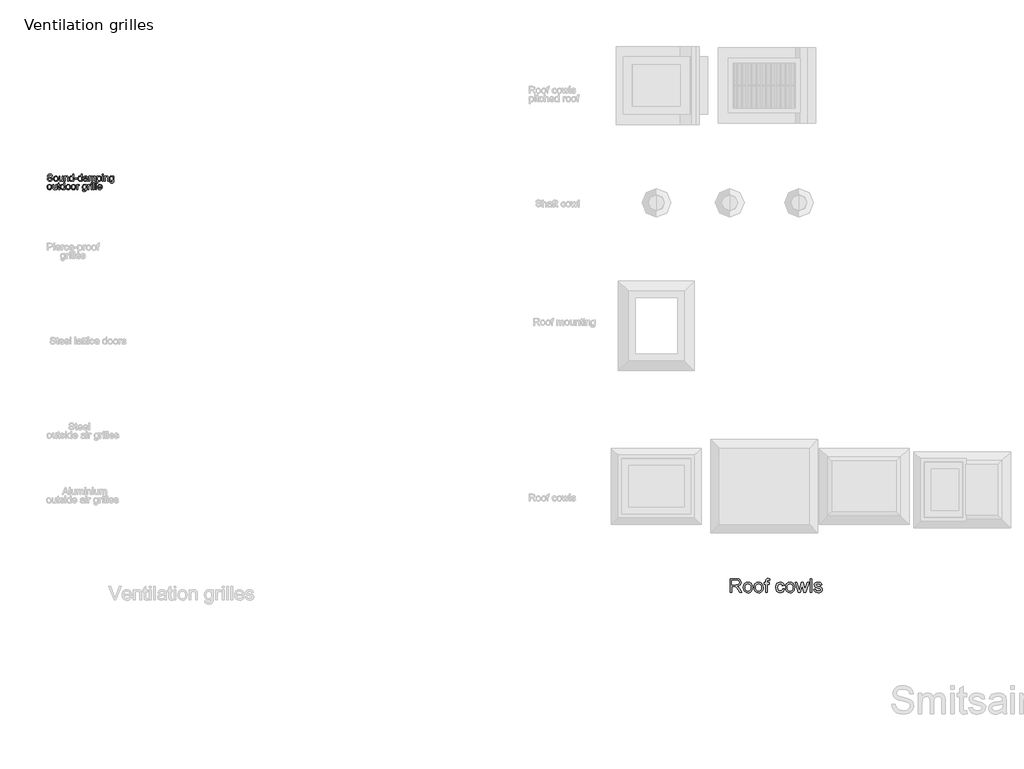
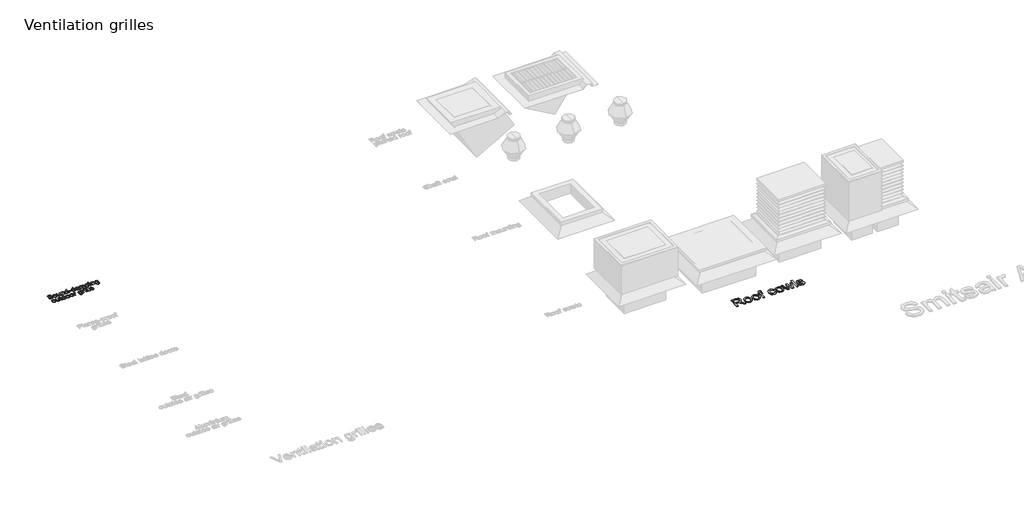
# One storey, part 4 of 10: 2 proxies.
"""IFC4 building model written with IfcOpenShell, lengths in millimetres."""

import ifcopenshell
import ifcopenshell.guid

model = None  # the IFC model being written
_history = None  # IfcOwnerHistory: only IFC2X3 demands one
_inside = {}  # id of a spatial element -> (the spatial element, [elements in it])
_under = {}  # id of a project, library or spatial element -> (it, [spatial elements below it])
_declared = {}  # id of a project -> (the project, [libraries it declares])
_typed = {}  # id of a type object -> (the type object, [elements of that type])
_made_of = {}  # id of a material, layer set ... -> (it, [elements and type objects made of it])


def new_model(schema):
    """Start an empty IFC model of exactly this schema.

    Asked for "IFC4X3", IfcOpenShell would pick the latest addendum, in which some entities
    have other attributes; the version numbers below select the first issue.
    IFC2X3 requires an IfcOwnerHistory on every rooted entity: one is made here for all.
    """
    global model, _history
    if schema == "IFC4X3":
        model = ifcopenshell.file(schema_version=(4, 3, 0, 0))
    else:
        model = ifcopenshell.file(schema=schema)
    _inside.clear()
    _under.clear()
    _declared.clear()
    _typed.clear()
    _made_of.clear()
    _history = None
    if model.schema == "IFC2X3":
        org = make("IfcOrganization", Name="unknown")
        user = make(
            "IfcPersonAndOrganization",
            ThePerson=make("IfcPerson", FamilyName="unknown"),
            TheOrganization=org,
        )
        app = make(
            "IfcApplication",
            ApplicationDeveloper=org,
            Version="unknown",
            ApplicationFullName="unknown",
            ApplicationIdentifier="unknown",
        )
        _history = make(
            "IfcOwnerHistory",
            OwningUser=user,
            OwningApplication=app,
            ChangeAction="ADDED",
            CreationDate=0,
        )
    return model


def make(cls, **values):
    """One entity of the class cls with the attributes given. An attribute that is None is left unset."""
    return model.create_entity(
        cls, **{name: value for name, value in values.items() if value is not None}
    )


def rooted(cls, **values):
    """An entity with a GlobalId (a new one), such as an element, a storey or a relation."""
    return make(cls, GlobalId=ifcopenshell.guid.new(), OwnerHistory=_history, **values)


def si_unit(unit_type, name, prefix=None):
    """IfcSIUnit, for example si_unit("LENGTHUNIT", "METRE", prefix="MILLI")."""
    return make("IfcSIUnit", UnitType=unit_type, Prefix=prefix, Name=name)


def assignment(units):
    """IfcUnitAssignment: the units of a project."""
    return None if units is None else make("IfcUnitAssignment", Units=units)


def point(xyz):
    """IfcCartesianPoint."""
    return None if xyz is None else make("IfcCartesianPoint", Coordinates=xyz)


def direction(xyz):
    """IfcDirection."""
    return None if xyz is None else make("IfcDirection", DirectionRatios=xyz)


def frame(location, z_axis=None, x_axis=None):
    """IfcAxis2Placement3D, a coordinate frame: its origin and axes. An axis left out is left unset."""
    return make(
        "IfcAxis2Placement3D",
        Location=point(location),
        Axis=direction(z_axis),
        RefDirection=direction(x_axis),
    )


def origin():
    """The frame at (0, 0, 0) with its axes left unset."""
    return frame((0.0, 0.0, 0.0))


def origin_with_axes():
    """The frame at (0, 0, 0) with the z axis (0, 0, 1) and the x axis (1, 0, 0) written out."""
    return frame((0.0, 0.0, 0.0), z_axis=(0.0, 0.0, 1.0), x_axis=(1.0, 0.0, 0.0))


def place(relative_to, where):
    """IfcLocalPlacement: puts the frame where relative to a parent placement (None: the world)."""
    return make(
        "IfcLocalPlacement", PlacementRelTo=relative_to, RelativePlacement=where
    )


def context(
    kind, dimensions, precision=None, world=None, true_north=None, identifier=None
):
    """IfcGeometricRepresentationContext, for example the 3D "Model" context."""
    return make(
        "IfcGeometricRepresentationContext",
        ContextIdentifier=identifier,
        ContextType=kind,
        CoordinateSpaceDimension=dimensions,
        Precision=precision,
        WorldCoordinateSystem=world,
        TrueNorth=true_north,
    )


def project(units=None, contexts=None):
    """IfcProject with its units and contexts."""
    return rooted(
        "IfcProject",
        Name="project",
        RepresentationContexts=contexts,
        UnitsInContext=assignment(units),
    )


def spatial(cls, under=None, at=None, **own):
    """A site, building, storey or space (cls), placed at a placement, below another one or the project."""
    s = rooted(cls, ObjectPlacement=at, **own)
    if under is not None:
        _under.setdefault(under.id(), (under, []))[1].append(s)
    return s


def polyline(points):
    """IfcPolyline through the points."""
    return make("IfcPolyline", Points=[point(p) for p in points])


def outline(outer, holes=None, kind="AREA"):
    """IfcArbitraryClosedProfileDef: a profile drawn as a closed curve; with holes, ...WithVoids."""
    if holes is None:
        return make("IfcArbitraryClosedProfileDef", ProfileType=kind, OuterCurve=outer)
    return make(
        "IfcArbitraryProfileDefWithVoids",
        ProfileType=kind,
        OuterCurve=outer,
        InnerCurves=holes,
    )


def extrude(swept, where, along, depth):
    """IfcExtrudedAreaSolid: the profile swept, set in the frame where, extruded along a direction by depth."""
    return make(
        "IfcExtrudedAreaSolid",
        SweptArea=swept,
        Position=where,
        ExtrudedDirection=direction(along),
        Depth=depth,
    )


def shape(context_of_items, identifier, shape_type, items):
    """IfcShapeRepresentation: the items that make up one representation, for example the "Body"."""
    return make(
        "IfcShapeRepresentation",
        ContextOfItems=context_of_items,
        RepresentationIdentifier=identifier,
        RepresentationType=shape_type,
        Items=items,
    )


def made_of(thing, what):
    """Note that an element or type object is made of a material, layer set ...; save() writes the relation."""
    if what is not None:
        _made_of.setdefault(what.id(), (what, []))[1].append(thing)
    return thing


def element(
    cls,
    number,
    at=None,
    inside=None,
    cuts=None,
    type_object=None,
    material=None,
    context=None,
    identifier="Body",
    shape_type=None,
    held_by="IfcProductDefinitionShape",
    body=None,
    shapes=None,
    **own,
):
    """One element of the class cls, such as IfcWall. Its Tag is "e" and its number.

    at: its placement. inside: the storey or other place that contains it. cuts: it is an
    opening in that element (IfcRelVoidsElement). A single representation is given by context,
    identifier, shape_type and body (its items); several are given by shapes. held_by: the class
    of the entity that holds the representations. save() writes the other relations.
    """
    e = rooted(cls, Tag="e%d" % number, ObjectPlacement=at, **own)
    if body is not None:
        shapes = [shape(context, identifier, shape_type, body)]
    if shapes is not None:
        e.Representation = make(held_by, Representations=shapes)
    if inside is not None:
        _inside.setdefault(inside.id(), (inside, []))[1].append(e)
    if cuts is not None:
        rooted(
            "IfcRelVoidsElement", RelatingBuildingElement=cuts, RelatedOpeningElement=e
        )
    if type_object is not None:
        _typed.setdefault(type_object.id(), (type_object, []))[1].append(e)
    return made_of(e, material)


def aggregate(whole, parts):
    """IfcRelAggregates: a whole, such as a stair, and the parts it consists of."""
    return rooted("IfcRelAggregates", RelatingObject=whole, RelatedObjects=parts)


def save(model, path):
    """Write the relations noted so far, then the file.

    IfcRelAggregates (storeys below a building ...), IfcRelContainedInSpatialStructure (elements
    in a storey), IfcRelDefinesByType, IfcRelAssociatesMaterial and IfcRelDeclares: one each for
    every whole, place, type object, material and project.
    """
    for whole, parts in _under.values():
        aggregate(whole, parts)
    for where, things in _inside.values():
        rooted(
            "IfcRelContainedInSpatialStructure",
            RelatedElements=things,
            RelatingStructure=where,
        )
    for kind, things in _typed.values():
        rooted("IfcRelDefinesByType", RelatedObjects=things, RelatingType=kind)
    for what, things in _made_of.values():
        rooted("IfcRelAssociatesMaterial", RelatedObjects=things, RelatingMaterial=what)
    for by, libraries in _declared.values():
        rooted("IfcRelDeclares", RelatingContext=by, RelatedDefinitions=libraries)
    model.write(path)


model = new_model("IFC4")

# Units and contexts
model_context = context("Model", 3, world=origin())
ifc_project = project(units=[si_unit("LENGTHUNIT", "METRE", prefix="MILLI")], contexts=[model_context])

# Site, building, storey
site = spatial("IfcSite", under=ifc_project)
building = spatial("IfcBuilding", under=site)
storey = spatial("IfcBuildingStorey", under=building, Name="Ventilation grilles", Elevation=0.0)

# Proxies
placement = place(None, origin())
element("IfcBuildingElementProxy", 1, Name="100mm", ObjectType="100mm", at=placement, inside=storey, context=model_context, shape_type="SweptSolid", body=[
    extrude(outline(polyline([(-4941.3555448, -10379.6983384), (-4928.798506, -10379.6983384), (-4924.751804, -10392.2676399), (-4914.8680411, -10400.213891), (-4899.8094048, -10403.2427861), (-4886.6882803, -10400.949655), (-4878.2147317, -10394.6466101), (-4875.4310912, -10386.2221124), (-4877.5157559, -10378.3862259), (-4886.0506182, -10372.684055), (-4904.3343533, -10367.8893263), (-4924.0160401, -10361.6966461), (-4934.6968806, -10352.3524434), (-4938.2162851, -10339.868981), (-4933.8630148, -10325.6564733), (-4921.1465605, -10315.6255575), (-4902.5317315, -10312.204255), (-4882.6661038, -10315.7849731), (-4869.422352, -10326.3063981), (-4864.4436823, -10342.0272221), (-4877.0007211, -10342.0272221), (-4879.3061149, -10334.5346921), (-4884.1131063, -10329.1268268), (-4902.0412222, -10324.7612938), (-4920.018389, -10329.0777758), (-4925.6592463, -10339.501099), (-4921.6615953, -10348.2076396), (-4901.1583054, -10355.221923), (-4878.9382329, -10361.5249678), (-4866.7858643, -10371.7030363), (-4862.8740525, -10385.9032814), (-4867.3744755, -10400.9251295), (-4880.3239218, -10411.8880129), (-4899.3188954, -10415.7998248), (-4921.7474344, -10411.5814446), (-4935.9354167, -10398.8772531), (-4941.3555448, -10379.6983384)])), origin_with_axes(), (0.0, 0.0, 1.0), 2.0),
    extrude(outline(polyline([(-4848.7473838, -10377.3438936), (-4846.0311884, -10359.5567991), (-4837.8826022, -10347.0549427), (-4827.8148983, -10340.9297074), (-4815.7606316, -10338.8879624), (-4802.5689964, -10341.3742315), (-4792.0322429, -10348.833039), (-4785.1252585, -10360.6757735), (-4782.8229303, -10376.313824), (-4786.8941577, -10398.6565239), (-4798.7522207, -10411.2994018), (-4815.7606316, -10415.7998248), (-4829.1116823, -10413.3227527), (-4839.6361731, -10405.8915364), (-4846.4695812, -10393.8004815), (-4848.7473838, -10377.3438936)]), holes=[polyline([(-4836.1903451, -10377.3193681), (-4834.7372112, -10388.6838561), (-4830.3778095, -10396.7803257), (-4823.8172473, -10401.627171), (-4815.7606316, -10403.2427861), (-4807.7408041, -10401.6179739), (-4801.1925046, -10396.7435375), (-4796.833103, -10388.539769), (-4795.3799691, -10376.9269607), (-4796.8423, -10365.8935665), (-4801.2292928, -10357.9074615), (-4807.7867894, -10353.0606162), (-4815.7606316, -10351.4450011), (-4823.8172473, -10353.0544849), (-4830.3778095, -10357.8829361), (-4834.7372112, -10365.9610115), (-4836.1903451, -10377.3193681)])]), origin_with_axes(), (0.0, 0.0, 1.0), 2.0),
    extrude(outline(polyline([(-4721.6073663, -10414.230195), (-4721.6073663, -10401.5505289), (-4731.4420783, -10412.2375008), (-4744.2688972, -10415.7998248), (-4756.0779093, -10413.2982273), (-4764.2203641, -10407.0197079), (-4767.9604977, -10397.7736071), (-4768.6962617, -10386.0994851), (-4768.6962617, -10340.4575922), (-4756.1392229, -10340.4575922), (-4756.1392229, -10380.1888477), (-4755.3789335, -10392.9911411), (-4750.4125265, -10400.5081966), (-4741.0560611, -10403.2427861), (-4730.5714243, -10400.4468829), (-4723.64298, -10392.8317256), (-4721.6073663, -10378.839947), (-4721.6073663, -10340.4575922), (-4709.0503275, -10340.4575922), (-4709.0503275, -10414.230195), (-4721.6073663, -10414.230195)])), origin_with_axes(), (0.0, 0.0, 1.0), 2.0),
    extrude(outline(polyline([(-4691.7843992, -10414.230195), (-4691.7843992, -10340.4575922), (-4679.2273605, -10340.4575922), (-4679.2273605, -10350.7582881), (-4669.6256404, -10341.8555438), (-4656.5167786, -10338.8879624), (-4644.6587156, -10341.2791953), (-4636.5653118, -10347.5577147), (-4632.8006527, -10356.7915528), (-4632.1384651, -10368.9316586), (-4632.1384651, -10414.230195), (-4644.6955038, -10414.230195), (-4644.6955038, -10370.6239158), (-4646.1425064, -10359.5138796), (-4651.2560661, -10353.6400304), (-4659.8767675, -10351.4450011), (-4673.5006641, -10356.3746199), (-4677.7956864, -10363.5176619), (-4679.2273605, -10375.0875507), (-4679.2273605, -10414.230195), (-4691.7843992, -10414.230195)])), origin_with_axes(), (0.0, 0.0, 1.0), 2.0),
    extrude(outline(polyline([(-4569.3532712, -10414.230195), (-4569.3532712, -10402.3843947), (-4577.661273, -10412.4459673), (-4589.1453226, -10415.7998248), (-4604.6944682, -10410.9437825), (-4615.6818772, -10397.3934623), (-4619.5814263, -10377.41747), (-4615.9884455, -10357.4292149), (-4605.2217658, -10343.6704283), (-4589.1943735, -10338.8879624), (-4577.6183534, -10342.3092649), (-4569.3532712, -10351.1997465), (-4569.3532712, -10313.7738848), (-4556.7962325, -10313.7738848), (-4556.7962325, -10414.230195), (-4569.3532712, -10414.230195)]), holes=[polyline([(-4607.0243875, -10377.3684191), (-4605.6080419, -10388.7267757), (-4601.3590048, -10396.8048511), (-4595.1847187, -10401.6333023), (-4587.9926257, -10403.2427861), (-4580.8035983, -10401.7068787), (-4574.785662, -10397.0991567), (-4570.7113689, -10389.333781), (-4569.3532712, -10378.3249123), (-4570.7358944, -10366.2890396), (-4574.8837639, -10357.9442497), (-4581.0549844, -10353.0698133), (-4588.5076605, -10351.4450011), (-4595.7733299, -10353.0054339), (-4601.7268868, -10357.6867323), (-4605.7000124, -10365.7280196), (-4607.0243875, -10377.3684191)])]), origin_with_axes(), (0.0, 0.0, 1.0), 2.0),
    extrude(outline(polyline([(-4544.2391937, -10384.4072279), (-4544.2391937, -10371.8501891), (-4504.9984475, -10371.8501891), (-4504.9984475, -10384.4072279), (-4544.2391937, -10384.4072279)])), origin_with_axes(), (0.0, 0.0, 1.0), 2.0),
    extrude(outline(polyline([(-4445.3525134, -10414.230195), (-4445.3525134, -10402.3843947), (-4453.6605151, -10412.4459673), (-4465.1445647, -10415.7998248), (-4480.6937104, -10410.9437825), (-4491.6811193, -10397.3934623), (-4495.5806685, -10377.41747), (-4491.9876876, -10357.4292149), (-4481.2210079, -10343.6704283), (-4465.1936157, -10338.8879624), (-4453.6175956, -10342.3092649), (-4445.3525134, -10351.1997465), (-4445.3525134, -10313.7738848), (-4432.7954746, -10313.7738848), (-4432.7954746, -10414.230195), (-4445.3525134, -10414.230195)]), holes=[polyline([(-4483.0236297, -10377.3684191), (-4481.607284, -10388.7267757), (-4477.358247, -10396.8048511), (-4471.1839608, -10401.6333023), (-4463.9918678, -10403.2427861), (-4456.8028405, -10401.7068787), (-4450.7849042, -10397.0991567), (-4446.7106111, -10389.333781), (-4445.3525134, -10378.3249123), (-4446.7351366, -10366.2890396), (-4450.8830061, -10357.9442497), (-4457.0542265, -10353.0698133), (-4464.5069026, -10351.4450011), (-4471.772572, -10353.0054339), (-4477.726129, -10357.6867323), (-4481.6992545, -10365.7280196), (-4483.0236297, -10377.3684191)])]), origin_with_axes(), (0.0, 0.0, 1.0), 2.0),
    extrude(outline(polyline([(-4366.8710211, -10404.8124159), (-4379.0479151, -10413.3227527), (-4392.5001334, -10415.7998248), (-4402.9939673, -10414.3099028), (-4410.7348176, -10409.8401365), (-4415.5080865, -10403.0527137), (-4417.0991762, -10394.6098219), (-4414.6956805, -10384.677008), (-4408.3803729, -10377.4665209), (-4399.5879932, -10373.3462426), (-4388.7232116, -10371.4577817), (-4366.9445975, -10367.1412996), (-4366.8710211, -10364.3453964), (-4370.3291118, -10355.0747702), (-4384.2105258, -10351.4450011), (-4396.9147174, -10353.8607596), (-4402.9725076, -10362.4324101), (-4415.5295463, -10360.8627802), (-4410.0971555, -10348.600047), (-4399.1587975, -10341.4140854), (-4382.591845, -10338.8879624), (-4367.3737932, -10341.1197798), (-4358.7776172, -10346.7238489), (-4354.927119, -10355.2464484), (-4354.3139823, -10366.2338573), (-4354.3139823, -10381.8565794), (-4353.6763202, -10403.6719817), (-4351.1747226, -10414.230195), (-4363.7317614, -10414.230195), (-4366.8710211, -10404.8124159)]), holes=[polyline([(-4366.8710211, -10379.6983384), (-4387.1290563, -10383.5488366), (-4397.9325242, -10385.5844503), (-4402.8253548, -10388.8953883), (-4404.5421374, -10393.7269051), (-4400.8020038, -10400.5204593), (-4389.8268576, -10403.2427861), (-4377.122666, -10400.2384164), (-4368.9311603, -10392.9666157), (-4366.9445975, -10383.254531), (-4366.8710211, -10379.6983384)])]), origin_with_axes(), (0.0, 0.0, 1.0), 2.0),
    extrude(outline(polyline([(-4337.048054, -10414.230195), (-4337.048054, -10340.4575922), (-4324.4910152, -10340.4575922), (-4324.4910152, -10352.5976981), (-4315.8580511, -10342.6526215), (-4303.5707925, -10338.8879624), (-4290.9892282, -10342.7261979), (-4284.0730467, -10353.4806148), (-4274.2751229, -10342.5361255), (-4261.9020251, -10338.8879624), (-4252.4627863, -10340.4054756), (-4245.4822254, -10344.9580153), (-4241.168809, -10352.6682088), (-4239.7310036, -10363.6586834), (-4239.7310036, -10414.230195), (-4252.2880423, -10414.230195), (-4252.2880423, -10369.054286), (-4253.453002, -10358.5696491), (-4257.6713822, -10353.4070384), (-4264.8450811, -10351.4450011), (-4277.1936534, -10356.4727217), (-4280.8816704, -10363.0148899), (-4282.1110094, -10372.5859531), (-4282.1110094, -10414.230195), (-4294.6680482, -10414.230195), (-4294.6680482, -10367.6563344), (-4297.5743159, -10355.4917031), (-4307.1024596, -10351.4450011), (-4316.3976114, -10354.1428024), (-4322.5780289, -10362.0400026), (-4324.4910152, -10377.0250625), (-4324.4910152, -10414.230195), (-4337.048054, -10414.230195)])), origin_with_axes(), (0.0, 0.0, 1.0), 2.0),
    extrude(outline(polyline([(-4220.8954454, -10442.4835322), (-4220.8954454, -10340.4575922), (-4208.3384066, -10340.4575922), (-4208.3384066, -10352.7693763), (-4199.6563915, -10342.3583159), (-4187.9332186, -10338.8879624), (-4172.016191, -10343.7440047), (-4161.6173932, -10357.4292149), (-4158.1102516, -10376.7798079), (-4162.0711144, -10397.1236822), (-4173.5735581, -10410.9805707), (-4189.4537975, -10415.7998248), (-4200.3798928, -10412.574726), (-4208.3384066, -10404.4200084), (-4208.3384066, -10442.4835322), (-4220.8954454, -10442.4835322)]), holes=[polyline([(-4208.3384066, -10377.9325048), (-4206.9803089, -10389.1896938), (-4202.9060158, -10397.0623685), (-4196.8942109, -10401.6976817), (-4189.7235777, -10403.2427861), (-4182.4364485, -10401.6424994), (-4176.2713594, -10396.8416393), (-4172.0683076, -10388.6807904), (-4170.6672903, -10377.0005371), (-4172.0345851, -10365.8046617), (-4176.1364693, -10357.8216224), (-4182.1390772, -10353.0391565), (-4189.2085429, -10351.4450011), (-4196.3055997, -10353.140324), (-4202.5381338, -10358.2262926), (-4206.8883384, -10366.5434914), (-4208.3384066, -10377.9325048)])]), origin_with_axes(), (0.0, 0.0, 1.0), 2.0),
    extrude(outline(polyline([(-4143.9835829, -10326.3309236), (-4143.9835829, -10313.7738848), (-4131.4265442, -10313.7738848), (-4131.4265442, -10326.3309236), (-4143.9835829, -10326.3309236)])), origin_with_axes(), (0.0, 0.0, 1.0), 2.0),
    extrude(outline(polyline([(-4143.9835829, -10414.230195), (-4143.9835829, -10340.4575922), (-4131.4265442, -10340.4575922), (-4131.4265442, -10414.230195), (-4143.9835829, -10414.230195)])), origin_with_axes(), (0.0, 0.0, 1.0), 2.0),
    extrude(outline(polyline([(-4112.590986, -10414.230195), (-4112.590986, -10340.4575922), (-4100.0339473, -10340.4575922), (-4100.0339473, -10350.7582881), (-4090.4322272, -10341.8555438), (-4077.3233654, -10338.8879624), (-4065.4653024, -10341.2791953), (-4057.3718985, -10347.5577147), (-4053.6072395, -10356.7915528), (-4052.9450519, -10368.9316586), (-4052.9450519, -10414.230195), (-4065.5020906, -10414.230195), (-4065.5020906, -10370.6239158), (-4066.9490932, -10359.5138796), (-4072.0626529, -10353.6400304), (-4080.6833543, -10351.4450011), (-4094.3072509, -10356.3746199), (-4098.6022732, -10363.5176619), (-4100.0339473, -10375.0875507), (-4100.0339473, -10414.230195), (-4112.590986, -10414.230195)])), origin_with_axes(), (0.0, 0.0, 1.0), 2.0),
    extrude(outline(polyline([(-4038.8183833, -10420.5087144), (-4026.2613445, -10422.0783442), (-4022.1901171, -10428.7002201), (-4010.0009603, -10431.4961233), (-3997.1496159, -10428.3323381), (-3991.0182494, -10419.4541193), (-3990.159858, -10404.8124159), (-3999.0012886, -10411.8757502), (-4009.7802311, -10414.230195), (-4022.7266117, -10411.4894741), (-4032.3804483, -10403.2673115), (-4038.3861219, -10391.2130448), (-4040.3880131, -10376.9760116), (-4036.7950323, -10357.5150541), (-4026.3962346, -10343.7440047), (-4010.3933678, -10338.8879624), (-3999.191361, -10341.6348146), (-3990.159858, -10349.8753713), (-3990.159858, -10340.4575922), (-3977.6028193, -10340.4575922), (-3977.6028193, -10404.1502283), (-3981.0363845, -10428.5408046), (-3991.9134289, -10439.8838328), (-4010.246215, -10444.0531621), (-4021.929534, -10442.5846998), (-4031.1296496, -10438.1793129), (-4037.0310899, -10430.8247387), (-4038.8183833, -10420.5087144)]), holes=[polyline([(-4027.8309743, -10376.1176203), (-4026.4912707, -10387.6353924), (-4022.4721599, -10395.5540524), (-4016.4296982, -10400.1433803), (-4009.0199416, -10401.6731562), (-4001.6653674, -10400.1525773), (-3995.5922488, -10395.5908406), (-3991.5179557, -10387.7733482), (-3990.159858, -10376.4855023), (-3991.5578096, -10365.5992609), (-3995.7516644, -10357.7603087), (-4001.9136878, -10353.023828), (-4009.2161454, -10351.4450011), (-4016.3867786, -10352.9993026), (-4022.3985835, -10357.6622069), (-4026.4728766, -10365.3846631), (-4027.8309743, -10376.1176203)])]), origin_with_axes(), (0.0, 0.0, 1.0), 2.0),
    extrude(outline(polyline([(-4941.3555448, -10499.3187114), (-4938.6393494, -10481.531617), (-4930.4907632, -10469.0297605), (-4920.4230592, -10462.9045253), (-4908.3687925, -10460.8627802), (-4895.1771573, -10463.3490494), (-4884.6404038, -10470.8078568), (-4877.7334194, -10482.6505914), (-4875.4310912, -10498.2886419), (-4879.5023186, -10520.6313417), (-4891.3603816, -10533.2742196), (-4908.3687925, -10537.7746427), (-4921.7198433, -10535.2975706), (-4932.244334, -10527.8663543), (-4939.0777421, -10515.7752994), (-4941.3555448, -10499.3187114)]), holes=[polyline([(-4928.798506, -10499.294186), (-4927.3453721, -10510.6586739), (-4922.9859705, -10518.7551435), (-4916.4254082, -10523.6019888), (-4908.3687925, -10525.2176039), (-4900.348965, -10523.5927918), (-4893.8006655, -10518.7183553), (-4889.4412639, -10510.5145868), (-4887.98813, -10498.9017785), (-4889.4504609, -10487.8683843), (-4893.8374537, -10479.8822794), (-4900.3949503, -10475.0354341), (-4908.3687925, -10473.419819), (-4916.4254082, -10475.0293027), (-4922.9859705, -10479.8577539), (-4927.3453721, -10487.9358294), (-4928.798506, -10499.294186)])]), origin_with_axes(), (0.0, 0.0, 1.0), 2.0),
    extrude(outline(polyline([(-4814.2155272, -10536.2050128), (-4814.2155272, -10523.5253467), (-4824.0502392, -10534.2123187), (-4836.8770581, -10537.7746427), (-4848.6860702, -10535.2730451), (-4856.828525, -10528.9945257), (-4860.5686586, -10519.7484249), (-4861.3044226, -10508.0743029), (-4861.3044226, -10462.4324101), (-4848.7473838, -10462.4324101), (-4848.7473838, -10502.1636655), (-4847.9870944, -10514.965959), (-4843.0206874, -10522.4830144), (-4833.664222, -10525.2176039), (-4823.1795852, -10522.4217007), (-4816.2511409, -10514.8065434), (-4814.2155272, -10500.8147649), (-4814.2155272, -10462.4324101), (-4801.6584885, -10462.4324101), (-4801.6584885, -10536.2050128), (-4814.2155272, -10536.2050128)])), origin_with_axes(), (0.0, 0.0, 1.0), 2.0),
    extrude(outline(polyline([(-4757.7088528, -10525.7326387), (-4756.1392229, -10536.5728948), (-4765.5324765, -10537.7746427), (-4776.0539016, -10535.689978), (-4781.3023514, -10530.220799), (-4782.8229303, -10515.9715031), (-4782.8229303, -10474.9894488), (-4792.2407094, -10474.9894488), (-4792.2407094, -10462.4324101), (-4782.8229303, -10462.4324101), (-4782.8229303, -10444.5042942), (-4770.2658915, -10437.1221288), (-4770.2658915, -10462.4324101), (-4757.7088528, -10462.4324101), (-4757.7088528, -10474.9894488), (-4770.2658915, -10474.9894488), (-4770.2658915, -10515.6036211), (-4769.6037039, -10522.0783442), (-4767.4577256, -10524.3714753), (-4763.1780318, -10525.2176039), (-4757.7088528, -10525.7326387)])), origin_with_axes(), (0.0, 0.0, 1.0), 2.0),
    extrude(outline(polyline([(-4699.6325485, -10536.2050128), (-4699.6325485, -10524.3592126), (-4707.9405502, -10534.4207852), (-4719.4245998, -10537.7746427), (-4734.9737455, -10532.9186003), (-4745.9611544, -10519.3682802), (-4749.8607035, -10499.3922878), (-4746.2677227, -10479.4040328), (-4735.501043, -10465.6452462), (-4719.4736507, -10460.8627802), (-4707.8976306, -10464.2840828), (-4699.6325485, -10473.1745643), (-4699.6325485, -10435.7487027), (-4687.0755097, -10435.7487027), (-4687.0755097, -10536.2050128), (-4699.6325485, -10536.2050128)]), holes=[polyline([(-4737.3036648, -10499.3432369), (-4735.8873191, -10510.7015935), (-4731.638282, -10518.779669), (-4725.4639959, -10523.6081202), (-4718.2719029, -10525.2176039), (-4711.0828756, -10523.6816966), (-4705.0649393, -10519.0739746), (-4700.9906462, -10511.3085988), (-4699.6325485, -10500.2997301), (-4701.0151716, -10488.2638575), (-4705.1630411, -10479.9190676), (-4711.3342616, -10475.0446311), (-4718.7869377, -10473.419819), (-4726.0526071, -10474.9802518), (-4732.006164, -10479.6615502), (-4735.9792896, -10487.7028374), (-4737.3036648, -10499.3432369)])]), origin_with_axes(), (0.0, 0.0, 1.0), 2.0),
    extrude(outline(polyline([(-4671.3792112, -10499.3187114), (-4668.6630158, -10481.531617), (-4660.5144296, -10469.0297605), (-4650.4467257, -10462.9045253), (-4638.392459, -10460.8627802), (-4625.2008238, -10463.3490494), (-4614.6640703, -10470.8078568), (-4607.7570858, -10482.6505914), (-4605.4547577, -10498.2886419), (-4609.5259851, -10520.6313417), (-4621.3840481, -10533.2742196), (-4638.392459, -10537.7746427), (-4651.7435097, -10535.2975706), (-4662.2680005, -10527.8663543), (-4669.1014085, -10515.7752994), (-4671.3792112, -10499.3187114)]), holes=[polyline([(-4658.8221725, -10499.294186), (-4657.3690386, -10510.6586739), (-4653.0096369, -10518.7551435), (-4646.4490747, -10523.6019888), (-4638.392459, -10525.2176039), (-4630.3726315, -10523.5927918), (-4623.824332, -10518.7183553), (-4619.4649303, -10510.5145868), (-4618.0117965, -10498.9017785), (-4619.4741274, -10487.8683843), (-4623.8611202, -10479.8822794), (-4630.4186168, -10475.0354341), (-4638.392459, -10473.419819), (-4646.4490747, -10475.0293027), (-4653.0096369, -10479.8577539), (-4657.3690386, -10487.9358294), (-4658.8221725, -10499.294186)])]), origin_with_axes(), (0.0, 0.0, 1.0), 2.0),
    extrude(outline(polyline([(-4594.4673488, -10499.3187114), (-4591.7511534, -10481.531617), (-4583.6025672, -10469.0297605), (-4573.5348632, -10462.9045253), (-4561.4805965, -10460.8627802), (-4548.2889613, -10463.3490494), (-4537.7522078, -10470.8078568), (-4530.8452234, -10482.6505914), (-4528.5428952, -10498.2886419), (-4532.6141227, -10520.6313417), (-4544.4721856, -10533.2742196), (-4561.4805965, -10537.7746427), (-4574.8316473, -10535.2975706), (-4585.356138, -10527.8663543), (-4592.1895461, -10515.7752994), (-4594.4673488, -10499.3187114)]), holes=[polyline([(-4581.91031, -10499.294186), (-4580.4571761, -10510.6586739), (-4576.0977745, -10518.7551435), (-4569.5372122, -10523.6019888), (-4561.4805965, -10525.2176039), (-4553.460769, -10523.5927918), (-4546.9124695, -10518.7183553), (-4542.5530679, -10510.5145868), (-4541.099934, -10498.9017785), (-4542.5622649, -10487.8683843), (-4546.9492577, -10479.8822794), (-4553.5067543, -10475.0354341), (-4561.4805965, -10473.419819), (-4569.5372122, -10475.0293027), (-4576.0977745, -10479.8577539), (-4580.4571761, -10487.9358294), (-4581.91031, -10499.294186)])]), origin_with_axes(), (0.0, 0.0, 1.0), 2.0),
    extrude(outline(polyline([(-4514.4162266, -10536.2050128), (-4514.4162266, -10462.4324101), (-4503.4288177, -10462.4324101), (-4503.4288177, -10473.3462426), (-4495.6297194, -10463.2908014), (-4487.7815702, -10460.8627802), (-4475.1754805, -10464.7378039), (-4479.3693352, -10475.994993), (-4488.1985031, -10473.419819), (-4495.2986256, -10475.8968911), (-4499.8235741, -10482.7640217), (-4501.8591879, -10497.4302505), (-4501.8591879, -10536.2050128), (-4514.4162266, -10536.2050128)])), origin_with_axes(), (0.0, 0.0, 1.0), 2.0),
    extrude(outline(polyline([(-4431.2258448, -10542.4835322), (-4418.668806, -10544.0531621), (-4414.5975786, -10550.675038), (-4402.4084218, -10553.4709411), (-4389.5570775, -10550.307156), (-4383.4257109, -10541.4289372), (-4382.5673196, -10526.7872338), (-4391.4087502, -10533.8505681), (-4402.1876926, -10536.2050128), (-4415.1340732, -10533.464292), (-4424.7879099, -10525.2421294), (-4430.7935834, -10513.1878627), (-4432.7954746, -10498.9508295), (-4429.2024938, -10479.4898719), (-4418.8036961, -10465.7188226), (-4402.8008293, -10460.8627802), (-4391.5988225, -10463.6096324), (-4382.5673196, -10471.8501891), (-4382.5673196, -10462.4324101), (-4370.0102808, -10462.4324101), (-4370.0102808, -10526.1250462), (-4373.4438461, -10550.5156224), (-4384.3208904, -10561.8586506), (-4402.6536765, -10566.0279799), (-4414.3369955, -10564.5595176), (-4423.5371111, -10560.1541307), (-4429.4385514, -10552.7995565), (-4431.2258448, -10542.4835322)]), holes=[polyline([(-4420.2384359, -10498.0924381), (-4418.8987323, -10509.6102103), (-4414.8796215, -10517.5288702), (-4408.8371597, -10522.1181981), (-4401.4274032, -10523.6479741), (-4394.072829, -10522.1273951), (-4387.9997103, -10517.5656584), (-4383.9254173, -10509.748166), (-4382.5673196, -10498.4603201), (-4383.9652711, -10487.5740788), (-4388.1591259, -10479.7351266), (-4394.3211493, -10474.9986459), (-4401.6236069, -10473.419819), (-4408.7942401, -10474.9741204), (-4414.8060451, -10479.6370247), (-4418.8803382, -10487.3594809), (-4420.2384359, -10498.0924381)])]), origin_with_axes(), (0.0, 0.0, 1.0), 2.0),
    extrude(outline(polyline([(-4351.1747226, -10536.2050128), (-4351.1747226, -10462.4324101), (-4340.1873137, -10462.4324101), (-4340.1873137, -10473.3462426), (-4332.3882154, -10463.2908014), (-4324.5400662, -10460.8627802), (-4311.9339765, -10464.7378039), (-4316.1278312, -10475.994993), (-4324.9569991, -10473.419819), (-4332.0571216, -10475.8968911), (-4336.5820702, -10482.7640217), (-4338.6176839, -10497.4302505), (-4338.6176839, -10536.2050128), (-4351.1747226, -10536.2050128)])), origin_with_axes(), (0.0, 0.0, 1.0), 2.0),
    extrude(outline(polyline([(-4304.0858272, -10448.3057414), (-4304.0858272, -10435.7487027), (-4291.5287885, -10435.7487027), (-4291.5287885, -10448.3057414), (-4304.0858272, -10448.3057414)])), origin_with_axes(), (0.0, 0.0, 1.0), 2.0),
    extrude(outline(polyline([(-4304.0858272, -10536.2050128), (-4304.0858272, -10462.4324101), (-4291.5287885, -10462.4324101), (-4291.5287885, -10536.2050128), (-4304.0858272, -10536.2050128)])), origin_with_axes(), (0.0, 0.0, 1.0), 2.0),
    extrude(outline(polyline([(-4272.6932303, -10536.2050128), (-4272.6932303, -10435.7487027), (-4260.1361916, -10435.7487027), (-4260.1361916, -10536.2050128), (-4272.6932303, -10536.2050128)])), origin_with_axes(), (0.0, 0.0, 1.0), 2.0),
    extrude(outline(polyline([(-4241.3006334, -10536.2050128), (-4241.3006334, -10435.7487027), (-4228.7435946, -10435.7487027), (-4228.7435946, -10536.2050128), (-4241.3006334, -10536.2050128)])), origin_with_axes(), (0.0, 0.0, 1.0), 2.0),
    extrude(outline(polyline([(-4158.2574044, -10514.230195), (-4145.9456203, -10515.7998248), (-4150.381664, -10525.0765825), (-4157.4603267, -10532.0111581), (-4167.0221929, -10536.3337715), (-4178.907847, -10537.7746427), (-4193.6415209, -10535.2883735), (-4204.9784177, -10527.8295661), (-4212.207299, -10515.8825983), (-4214.616926, -10499.9318481), (-4212.1827735, -10483.4446034), (-4204.8803159, -10471.1144252), (-4193.6967032, -10463.4256915), (-4179.6190855, -10460.8627802), (-4165.9798606, -10463.4195601), (-4155.0813565, -10471.0898997), (-4147.9352487, -10483.3955524), (-4145.5532128, -10499.8582717), (-4145.6267892, -10503.2427861), (-4202.0598873, -10503.2427861), (-4199.8863178, -10512.642171), (-4194.8371374, -10519.5522212), (-4187.5500082, -10523.8012582), (-4178.6625924, -10525.2176039), (-4166.3508083, -10522.593379), (-4158.2574044, -10514.230195)]), holes=[polyline([(-4202.0598873, -10490.6857473), (-4158.1102516, -10490.6857473), (-4163.1379722, -10479.3059309), (-4170.4588239, -10474.891347), (-4179.6681365, -10473.419819), (-4195.131443, -10478.1164458), (-4199.9966824, -10483.6070846), (-4202.0598873, -10490.6857473)])]), origin_with_axes(), (0.0, 0.0, 1.0), 2.0),
])
element("IfcBuildingElementProxy", 2, Name="200mm", ObjectType="200mm", at=placement, inside=storey, context=model_context, shape_type="SweptSolid", body=[
    extrude(outline(polyline([(4938.5411369, -16369.3845569), (4938.5411369, -16168.4719366), (5025.1160331, -16168.4719366), (5048.3845693, -16169.8269687), (5065.3132725, -16173.8920647), (5077.6863702, -16181.3968574), (5087.2880903, -16193.0709794), (5093.4501137, -16207.5471359), (5095.5041215, -16223.4580322), (5092.1012131, -16243.2500835), (5081.8924877, -16259.6576205), (5064.5713771, -16271.6873618), (5039.8313129, -16278.3460259), (5054.1051343, -16289.0881801), (5074.4612714, -16314.9380217), (5107.9630584, -16369.3845569), (5078.7777535, -16369.3845569), (5052.6336064, -16327.7403151), (5033.7489973, -16300.1736909), (5020.48072, -16287.1506683), (5008.5368179, -16282.3682024), (4993.9686909, -16281.4852856), (4963.6552145, -16281.4852856), (4963.6552145, -16369.3845569), (4938.5411369, -16369.3845569)]), holes=[polyline([(4963.6552145, -16256.371208), (5019.8675833, -16256.371208), (5048.5378535, -16252.8150154), (5057.9678953, -16248.191965), (5064.8227631, -16241.435199), (5070.390044, -16224.3899999), (5067.7351623, -16212.1395295), (5059.7705171, -16202.2680293), (5046.0669128, -16195.756518), (5026.1951536, -16193.5860142), (4963.6552145, -16193.5860142), (4963.6552145, -16256.371208)])]), origin_with_axes(), (0.0, 0.0, 1.0), 5.0),
    extrude(outline(polyline([(5130.0359782, -16295.6119542), (5135.4683689, -16260.0377652), (5142.2588574, -16246.2145993), (5151.7655413, -16235.0340523), (5171.9009492, -16222.7835819), (5196.0094826, -16218.7000917), (5222.392753, -16223.67263), (5243.46626, -16238.5902449), (5257.2802289, -16262.2757141), (5261.8848852, -16293.551815), (5259.8492715, -16318.9234099), (5253.7424304, -16338.2372147), (5243.7421715, -16352.7011085), (5230.0263044, -16363.5229705), (5213.7352634, -16370.2736051), (5196.0094826, -16372.5238166), (5169.3073811, -16367.5696724), (5148.2583996, -16352.7072398), (5134.5915835, -16328.52513), (5130.0359782, -16295.6119542)]), holes=[polyline([(5155.1500557, -16295.5629033), (5158.0563235, -16318.2918792), (5166.7751267, -16334.4848183), (5179.8962512, -16344.1785089), (5196.0094826, -16347.4097391), (5212.0491376, -16344.1601148), (5225.1457366, -16334.4112419), (5233.8645399, -16318.003705), (5236.7708077, -16294.7780883), (5233.8461458, -16272.7113), (5225.0721602, -16256.73909), (5211.9571671, -16247.0453995), (5196.0094826, -16243.8141693), (5179.8962512, -16247.0331367), (5166.7751267, -16256.6900391), (5158.0563235, -16272.84619), (5155.1500557, -16295.5629033)])]), origin_with_axes(), (0.0, 0.0, 1.0), 5.0),
    extrude(outline(polyline([(5283.8597031, -16295.6119542), (5289.2920939, -16260.0377652), (5296.0825824, -16246.2145993), (5305.5892662, -16235.0340523), (5325.7246741, -16222.7835819), (5349.8332075, -16218.7000917), (5376.216478, -16223.67263), (5397.2899849, -16238.5902449), (5411.1039538, -16262.2757141), (5415.7086101, -16293.551815), (5413.6729964, -16318.9234099), (5407.5661553, -16338.2372147), (5397.5658964, -16352.7011085), (5383.8500294, -16363.5229705), (5367.5589883, -16370.2736051), (5349.8332075, -16372.5238166), (5323.1311061, -16367.5696724), (5302.0821246, -16352.7072398), (5288.4153084, -16328.52513), (5283.8597031, -16295.6119542)]), holes=[polyline([(5308.9737806, -16295.5629033), (5311.8800484, -16318.2918792), (5320.5988517, -16334.4848183), (5333.7199761, -16344.1785089), (5349.8332075, -16347.4097391), (5365.8728625, -16344.1601148), (5378.9694616, -16334.4112419), (5387.6882648, -16318.003705), (5390.5945326, -16294.7780883), (5387.6698707, -16272.7113), (5378.8958852, -16256.73909), (5365.780892, -16247.0453995), (5349.8332075, -16243.8141693), (5333.7199761, -16247.0331367), (5320.5988517, -16256.6900391), (5311.8800484, -16272.84619), (5308.9737806, -16295.5629033)])]), origin_with_axes(), (0.0, 0.0, 1.0), 5.0),
    extrude(outline(polyline([(5450.2404668, -16369.3845569), (5450.2404668, -16246.953429), (5428.2656489, -16246.953429), (5428.2656489, -16221.8393514), (5450.2404668, -16221.8393514), (5450.2404668, -16206.9769188), (5452.8892171, -16186.0321706), (5457.9414632, -16177.6812493), (5465.7405615, -16171.0716361), (5476.654394, -16166.7674167), (5491.0508428, -16165.332677), (5513.9576283, -16168.0795292), (5510.2788084, -16191.6239769), (5495.8087832, -16190.4467545), (5479.9898574, -16194.6160838), (5476.5133726, -16200.5880348), (5475.3545443, -16210.1652294), (5475.3545443, -16221.8393514), (5503.6078815, -16221.8393514), (5503.6078815, -16246.953429), (5475.3545443, -16246.953429), (5475.3545443, -16369.3845569), (5450.2404668, -16369.3845569)])), origin_with_axes(), (0.0, 0.0, 1.0), 5.0),
    extrude(outline(polyline([(5698.2419824, -16316.0171422), (5723.35606, -16319.1564019), (5716.3540393, -16341.4929703), (5703.1961266, -16358.3726226), (5685.1208579, -16368.9860181), (5663.3667693, -16372.5238166), (5636.6524051, -16367.5880665), (5615.7628391, -16352.7808162), (5602.279964, -16328.7519906), (5597.7856723, -16296.1515144), (5599.70479, -16273.8026832), (5605.4621433, -16254.4336962), (5615.1497025, -16238.79258), (5628.8594381, -16227.6273615), (5645.2608438, -16220.9319092), (5663.0234128, -16218.7000917), (5684.2440725, -16221.765775), (5701.2095639, -16230.9628249), (5713.3803265, -16245.800732), (5720.2168003, -16265.7889871), (5695.1027227, -16268.9282468), (5690.5471174, -16257.9714947), (5683.4531262, -16250.1172141), (5674.2131568, -16245.3899305), (5663.2196165, -16243.8141693), (5646.9898891, -16246.9166408), (5634.1078879, -16256.2240552), (5625.7017844, -16272.2391848), (5622.8997498, -16295.4648014), (5625.6404707, -16319.0031177), (5633.8626333, -16335.0734295), (5646.5116425, -16344.3256617), (5662.5329034, -16347.4097391), (5675.537532, -16345.48449), (5686.1999785, -16339.7087427), (5693.9561572, -16329.9353443), (5698.2419824, -16316.0171422)])), origin_with_axes(), (0.0, 0.0, 1.0), 5.0),
    extrude(outline(polyline([(5739.0523584, -16295.6119542), (5744.4847492, -16260.0377652), (5751.2752377, -16246.2145993), (5760.7819216, -16235.0340523), (5780.9173295, -16222.7835819), (5805.0258629, -16218.7000917), (5831.4091333, -16223.67263), (5852.4826403, -16238.5902449), (5866.2966092, -16262.2757141), (5870.9012655, -16293.551815), (5868.8656518, -16318.9234099), (5862.7588107, -16338.2372147), (5852.7585518, -16352.7011085), (5839.0426847, -16363.5229705), (5822.7516437, -16370.2736051), (5805.0258629, -16372.5238166), (5778.3237614, -16367.5696724), (5757.2747799, -16352.7072398), (5743.6079638, -16328.52513), (5739.0523584, -16295.6119542)]), holes=[polyline([(5764.166436, -16295.5629033), (5767.0727037, -16318.2918792), (5775.791507, -16334.4848183), (5788.9126315, -16344.1785089), (5805.0258629, -16347.4097391), (5821.0655179, -16344.1601148), (5834.1621169, -16334.4112419), (5842.8809202, -16318.003705), (5845.787188, -16294.7780883), (5842.8625261, -16272.7113), (5834.0885405, -16256.73909), (5820.9735474, -16247.0453995), (5805.0258629, -16243.8141693), (5788.9126315, -16247.0331367), (5775.791507, -16256.6900391), (5767.0727037, -16272.84619), (5764.166436, -16295.5629033)])]), origin_with_axes(), (0.0, 0.0, 1.0), 5.0),
    extrude(outline(polyline([(5923.6310181, -16369.3845569), (5878.7494147, -16221.8393514), (5904.8445109, -16221.8393514), (5930.301945, -16307.9237383), (5937.9048396, -16338.6786731), (5944.134308, -16309.0519097), (5964.3923432, -16221.8393514), (5994.3134122, -16221.8393514), (6014.4733455, -16308.8066551), (6020.0161009, -16335.6375153), (6027.962352, -16307.3351271), (6053.468837, -16221.8393514), (6079.662035, -16221.8393514), (6034.4370751, -16369.3845569), (6004.0745478, -16369.3845569), (5984.7975312, -16282.8587117), (5979.2057249, -16255.8806987), (5954.336902, -16369.3845569), (5923.6310181, -16369.3845569)])), origin_with_axes(), (0.0, 0.0, 1.0), 5.0),
    extrude(outline(polyline([(6096.9279633, -16369.3845569), (6096.9279633, -16168.4719366), (6122.0420409, -16168.4719366), (6122.0420409, -16369.3845569), (6096.9279633, -16369.3845569)])), origin_with_axes(), (0.0, 0.0, 1.0), 5.0),
    extrude(outline(polyline([(6150.2953781, -16325.4349213), (6175.4094556, -16322.2956616), (6179.3703185, -16333.0378158), (6187.0345267, -16340.935016), (6198.4511313, -16345.7910583), (6213.6691831, -16347.4097391), (6228.703294, -16345.9259484), (6239.27377, -16341.4745762), (6245.5277639, -16335.0243786), (6247.6124286, -16327.5441114), (6245.5155012, -16321.1429646), (6239.2247191, -16316.2623968), (6213.3748775, -16309.1009607), (6175.5566084, -16296.813702), (6165.9855452, -16290.6394159), (6159.0509696, -16282.4663042), (6153.4346378, -16262.208269), (6157.9473236, -16243.4953382), (6170.2591077, -16229.1969913), (6186.2251863, -16221.765775), (6207.8321222, -16218.7000917), (6238.3908532, -16223.6297105), (6249.8197205, -16229.4299833), (6257.8150226, -16236.9715642), (6266.4479867, -16259.5104677), (6241.3339092, -16262.6497274), (6238.1639927, -16254.7463959), (6231.8916046, -16248.7928389), (6209.7941595, -16243.8141693), (6195.3731853, -16245.0036544), (6185.7592024, -16248.5721097), (6180.3513371, -16253.7224577), (6178.5487153, -16259.6576205), (6181.5408222, -16266.9662095), (6190.9095504, -16272.5089649), (6212.5410117, -16277.8555165), (6249.4027876, -16289.6767913), (6266.5215631, -16303.067696), (6271.1752704, -16312.9146707), (6272.7265061, -16324.895361), (6270.9054902, -16337.2807215), (6265.4424426, -16348.930318), (6256.5458297, -16358.9305769), (6244.4241179, -16366.3679246), (6229.7824145, -16370.9848436), (6213.3258266, -16372.5238166), (6188.0032826, -16369.5562352), (6169.5233437, -16360.6534909), (6157.1870342, -16345.9136857), (6150.2953781, -16325.4349213)])), origin_with_axes(), (0.0, 0.0, 1.0), 5.0),
])

save(model, "model.ifc")
